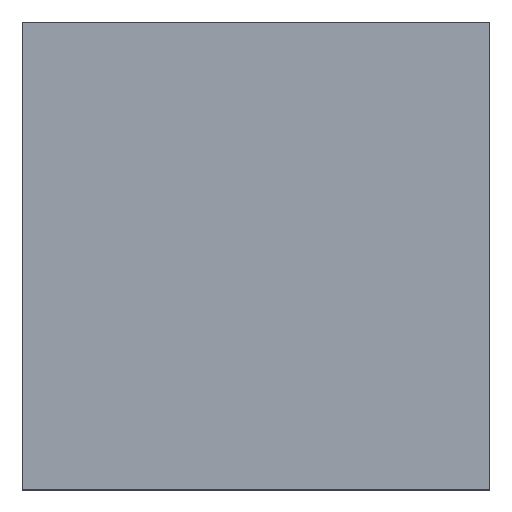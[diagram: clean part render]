
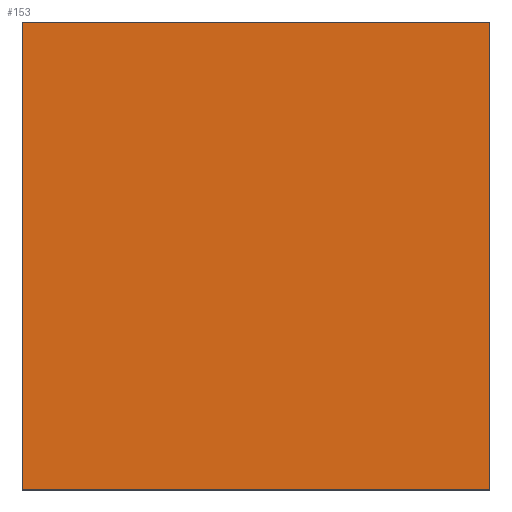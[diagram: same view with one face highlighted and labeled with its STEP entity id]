
A CAD part, top view. The second image highlights one B-rep face of the part: STEP entity #153.
In plain terms, the highlighted planar face has unit normal (0, 0, 1).
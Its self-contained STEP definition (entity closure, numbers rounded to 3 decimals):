
#24 = VERTEX_POINT('',#25);
#25 = CARTESIAN_POINT('',(-2.1,-2.1,1.8));
#31 = EDGE_CURVE('',#24,#32,#34,.T.);
#32 = VERTEX_POINT('',#33);
#33 = CARTESIAN_POINT('',(2.1,-2.1,1.8));
#34 = LINE('',#35,#36);
#35 = CARTESIAN_POINT('',(-2.1,-2.1,1.8));
#36 = VECTOR('',#37,1.);
#37 = DIRECTION('',(1.,0.,0.));
#62 = EDGE_CURVE('',#32,#63,#65,.T.);
#63 = VERTEX_POINT('',#64);
#64 = CARTESIAN_POINT('',(2.1,2.1,1.8));
#65 = LINE('',#66,#67);
#66 = CARTESIAN_POINT('',(2.1,-2.1,1.8));
#67 = VECTOR('',#68,1.);
#68 = DIRECTION('',(0.,1.,0.));
#93 = EDGE_CURVE('',#63,#94,#96,.T.);
#94 = VERTEX_POINT('',#95);
#95 = CARTESIAN_POINT('',(-2.1,2.1,1.8));
#96 = LINE('',#97,#98);
#97 = CARTESIAN_POINT('',(2.1,2.1,1.8));
#98 = VECTOR('',#99,1.);
#99 = DIRECTION('',(-1.,0.,0.));
#124 = EDGE_CURVE('',#94,#24,#125,.T.);
#125 = LINE('',#126,#127);
#126 = CARTESIAN_POINT('',(-2.1,2.1,1.8));
#127 = VECTOR('',#128,1.);
#128 = DIRECTION('',(0.,-1.,0.));
#153 = ADVANCED_FACE('',(#154),#160,.T.);
#154 = FACE_BOUND('',#155,.T.);
#155 = EDGE_LOOP('',(#156,#157,#158,#159));
#156 = ORIENTED_EDGE('',*,*,#31,.T.);
#157 = ORIENTED_EDGE('',*,*,#62,.T.);
#158 = ORIENTED_EDGE('',*,*,#93,.T.);
#159 = ORIENTED_EDGE('',*,*,#124,.T.);
#160 = PLANE('',#161);
#161 = AXIS2_PLACEMENT_3D('',#162,#163,#164);
#162 = CARTESIAN_POINT('',(0.,0.,1.8));
#163 = DIRECTION('',(0.,0.,1.));
#164 = DIRECTION('',(1.,0.,-0.));
